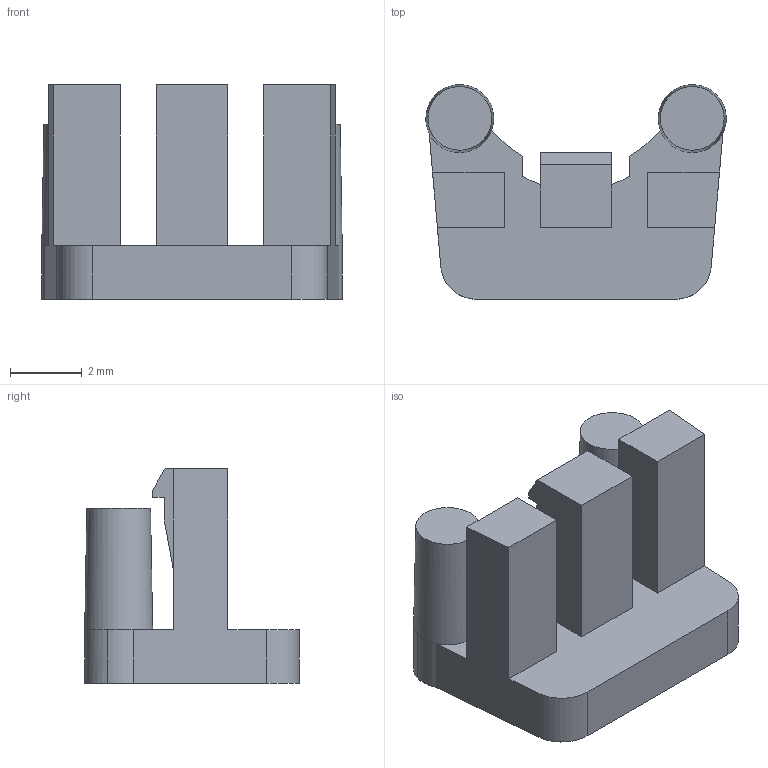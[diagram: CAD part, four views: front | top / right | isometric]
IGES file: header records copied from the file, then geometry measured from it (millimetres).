
Start section: Data from XPlus IGES,  Spatial Corp. Copyright (c) 1999-2004
Global section: file name: 216405.igs; native system:  By Spatial Corp.; preprocessor: XPlus ACIS/IGES 3.0; author: Noname; organization: Noname; date: 20120530.174922; units: millimetre
Bounding box: 8.4 x 6 x 6 mm (x, y, z)
Surface area: 251.6 mm2 (no closed solid volume)
Topology: 0 solids, 0 shells, 40 faces, 220 edges, 220 vertices
Faces by surface type: extrusion 26, revolution 14
